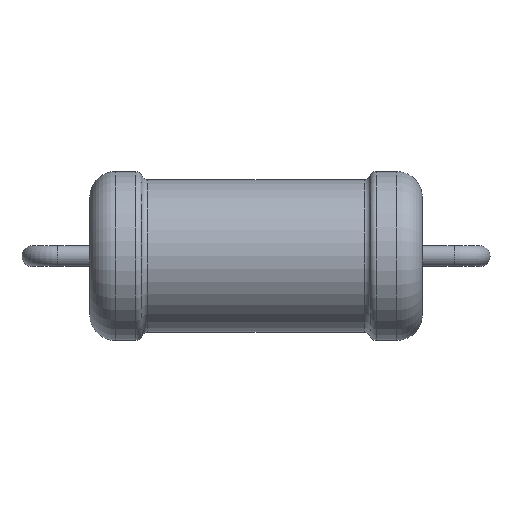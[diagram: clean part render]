
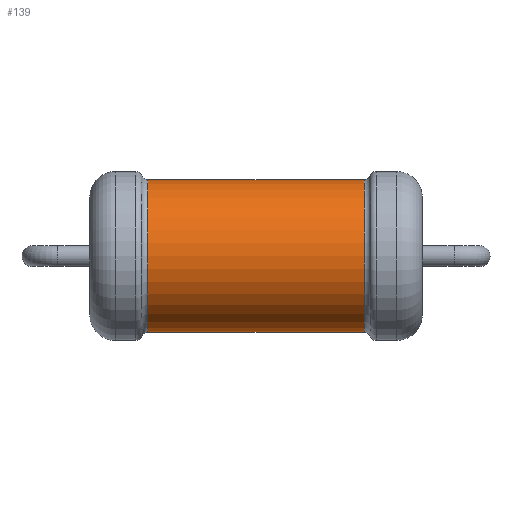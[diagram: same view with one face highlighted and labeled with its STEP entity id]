
A CAD part, top view. The second image highlights one B-rep face of the part: STEP entity #139.
In plain terms, the highlighted cylindrical face has radius 2.98 mm (diameter 5.96 mm), a full revolution.
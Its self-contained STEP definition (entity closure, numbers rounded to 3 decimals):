
#139=ADVANCED_FACE('',(#308,#310),#312,.T.);
#308=FACE_OUTER_BOUND('',#309,.T.);
#309=EDGE_LOOP('',(#413));
#310=FACE_OUTER_BOUND('',#311,.T.);
#311=EDGE_LOOP('',(#414));
#312=CYLINDRICAL_SURFACE('',#313,2.98);
#313=AXIS2_PLACEMENT_3D('',#314,#315,#316);
#314=CARTESIAN_POINT('',(4.227,0.,0.));
#315=DIRECTION('',(-1.,0.,0.));
#316=DIRECTION('',(0.,0.,1.));
#413=ORIENTED_EDGE('',*,*,#440,.T.);
#414=ORIENTED_EDGE('',*,*,#441,.F.);
#440=EDGE_CURVE('',#466,#466,#467,.T.);
#441=EDGE_CURVE('',#468,#468,#469,.T.);
#466=VERTEX_POINT('',#526);
#467=CIRCLE('',#527,2.98);
#468=VERTEX_POINT('',#531);
#469=CIRCLE('',#532,2.98);
#526=CARTESIAN_POINT('',(4.227,0.,2.98));
#527=AXIS2_PLACEMENT_3D('',#528,#529,#530);
#528=CARTESIAN_POINT('',(4.227,0.,0.));
#529=DIRECTION('',(-1.,0.,0.));
#530=DIRECTION('',(0.,0.,1.));
#531=CARTESIAN_POINT('',(-4.227,0.,2.98));
#532=AXIS2_PLACEMENT_3D('',#533,#534,#535);
#533=CARTESIAN_POINT('',(-4.227,0.,0.));
#534=DIRECTION('',(-1.,0.,0.));
#535=DIRECTION('',(0.,0.,1.));
